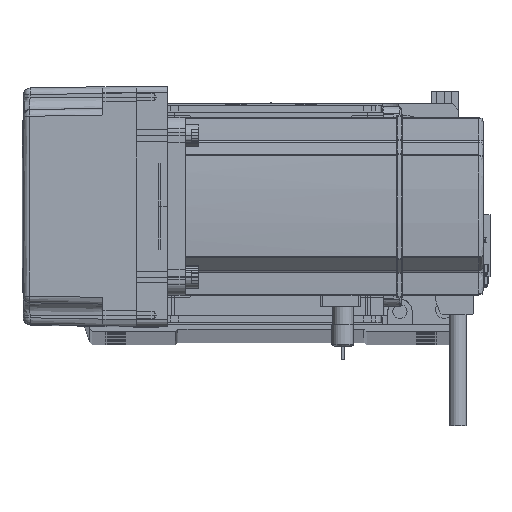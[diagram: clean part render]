
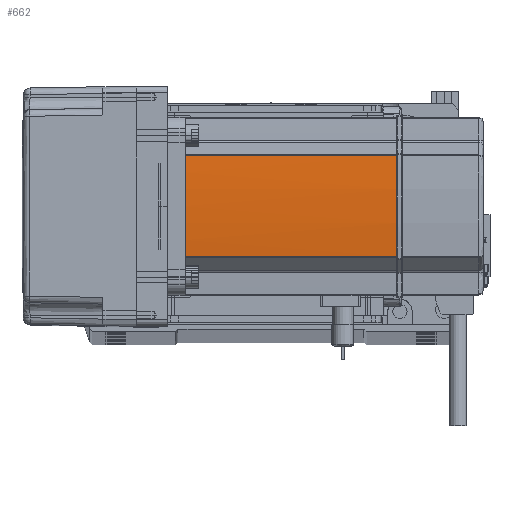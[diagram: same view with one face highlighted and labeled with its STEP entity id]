
A CAD part, top view. The second image highlights one B-rep face of the part: STEP entity #662.
In plain terms, the highlighted cylindrical face has radius 270 mm (diameter 540 mm), a partial arc.
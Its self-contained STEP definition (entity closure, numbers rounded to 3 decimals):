
#662 = ADVANCED_FACE ( 'NONE', ( #48248 ), #14754, .T. ) ;
#2784 = CARTESIAN_POINT ( 'NONE',  ( 39.042, 22.724, 58. ) ) ;
#3073 = ORIENTED_EDGE ( 'NONE', *, *, #22186, .F. ) ;
#4556 = VERTEX_POINT ( 'NONE', #9179 ) ;
#5161 = CARTESIAN_POINT ( 'NONE',  ( -230., 0., 58. ) ) ;
#5655 = DIRECTION ( 'NONE',  ( 0., 0., -1. ) ) ;
#6375 = VERTEX_POINT ( 'NONE', #52333 ) ;
#7910 = CARTESIAN_POINT ( 'NONE',  ( 39.042, -22.724, 134. ) ) ;
#8822 = VECTOR ( 'NONE', #23184, 1000. ) ;
#9179 = CARTESIAN_POINT ( 'NONE',  ( 39.042, 22.724, 134. ) ) ;
#9441 = ORIENTED_EDGE ( 'NONE', *, *, #29054, .T. ) ;
#10390 = AXIS2_PLACEMENT_3D ( 'NONE', #37004, #5655, #63023 ) ;
#11369 = CARTESIAN_POINT ( 'NONE',  ( 39.042, 22.724, 39. ) ) ;
#12674 = DIRECTION ( 'NONE',  ( 0., 0., -1. ) ) ;
#14754 = CYLINDRICAL_SURFACE ( 'NONE', #66090, 270. ) ;
#15333 = LINE ( 'NONE', #27969, #8822 ) ;
#18987 = ORIENTED_EDGE ( 'NONE', *, *, #38616, .F. ) ;
#19697 = LINE ( 'NONE', #2784, #38515 ) ;
#22186 = EDGE_CURVE ( 'NONE', #6375, #60175, #33657, .T. ) ;
#23184 = DIRECTION ( 'NONE',  ( 0., 0., -1. ) ) ;
#23604 = CARTESIAN_POINT ( 'NONE',  ( -230., 0., 39. ) ) ;
#24581 = CARTESIAN_POINT ( 'NONE',  ( 40., -0.042, 134. ) ) ;
#25707 = DIRECTION ( 'NONE',  ( -1., 0., 0. ) ) ;
#25788 = CARTESIAN_POINT ( 'NONE',  ( 39.042, -22.724, 39. ) ) ;
#27969 = CARTESIAN_POINT ( 'NONE',  ( 39.042, -22.724, 58. ) ) ;
#28154 = EDGE_LOOP ( 'NONE', ( #38312, #18987, #54929, #56467, #3073, #9441 ) ) ;
#28260 = DIRECTION ( 'NONE',  ( 0., 0., -1. ) ) ;
#29054 = EDGE_CURVE ( 'NONE', #6375, #62407, #42276, .T. ) ;
#31840 = CIRCLE ( 'NONE', #10390, 270. ) ;
#33657 = B_SPLINE_CURVE_WITH_KNOTS ( 'NONE', 3,
 ( #35572, #24581, #35326, #40333 ),
 .UNSPECIFIED., .F., .F.,
 ( 4, 4 ),
 ( 0., 1. ),
 .UNSPECIFIED. ) ;
#33660 = DIRECTION ( 'NONE',  ( -1., 0., 0. ) ) ;
#35326 = CARTESIAN_POINT ( 'NONE',  ( 40., 0.042, 134. ) ) ;
#35572 = CARTESIAN_POINT ( 'NONE',  ( 40., -0.127, 134. ) ) ;
#37004 = CARTESIAN_POINT ( 'NONE',  ( -230., 0., 134. ) ) ;
#38312 = ORIENTED_EDGE ( 'NONE', *, *, #53649, .T. ) ;
#38515 = VECTOR ( 'NONE', #44516, 1000. ) ;
#38616 = EDGE_CURVE ( 'NONE', #54855, #50449, #46972, .T. ) ;
#40333 = CARTESIAN_POINT ( 'NONE',  ( 40., 0.127, 134. ) ) ;
#42276 = CIRCLE ( 'NONE', #45905, 270. ) ;
#44176 = EDGE_CURVE ( 'NONE', #4556, #60175, #31840, .T. ) ;
#44516 = DIRECTION ( 'NONE',  ( 0., 0., 1. ) ) ;
#45905 = AXIS2_PLACEMENT_3D ( 'NONE', #59157, #28260, #64612 ) ;
#46972 = CIRCLE ( 'NONE', #53721, 270. ) ;
#47039 = EDGE_CURVE ( 'NONE', #54855, #4556, #19697, .T. ) ;
#48248 = FACE_OUTER_BOUND ( 'NONE', #28154, .T. ) ;
#50449 = VERTEX_POINT ( 'NONE', #25788 ) ;
#51656 = DIRECTION ( 'NONE',  ( 0., 0., -1. ) ) ;
#52333 = CARTESIAN_POINT ( 'NONE',  ( 40., -0.127, 134. ) ) ;
#53649 = EDGE_CURVE ( 'NONE', #62407, #50449, #15333, .T. ) ;
#53721 = AXIS2_PLACEMENT_3D ( 'NONE', #23604, #12674, #33660 ) ;
#54855 = VERTEX_POINT ( 'NONE', #11369 ) ;
#54929 = ORIENTED_EDGE ( 'NONE', *, *, #47039, .T. ) ;
#56101 = CARTESIAN_POINT ( 'NONE',  ( 40., 0.127, 134. ) ) ;
#56467 = ORIENTED_EDGE ( 'NONE', *, *, #44176, .T. ) ;
#59157 = CARTESIAN_POINT ( 'NONE',  ( -230., 0., 134. ) ) ;
#60175 = VERTEX_POINT ( 'NONE', #56101 ) ;
#62407 = VERTEX_POINT ( 'NONE', #7910 ) ;
#63023 = DIRECTION ( 'NONE',  ( -1., 0., 0. ) ) ;
#64612 = DIRECTION ( 'NONE',  ( -1., 0., 0. ) ) ;
#66090 = AXIS2_PLACEMENT_3D ( 'NONE', #5161, #51656, #25707 ) ;
